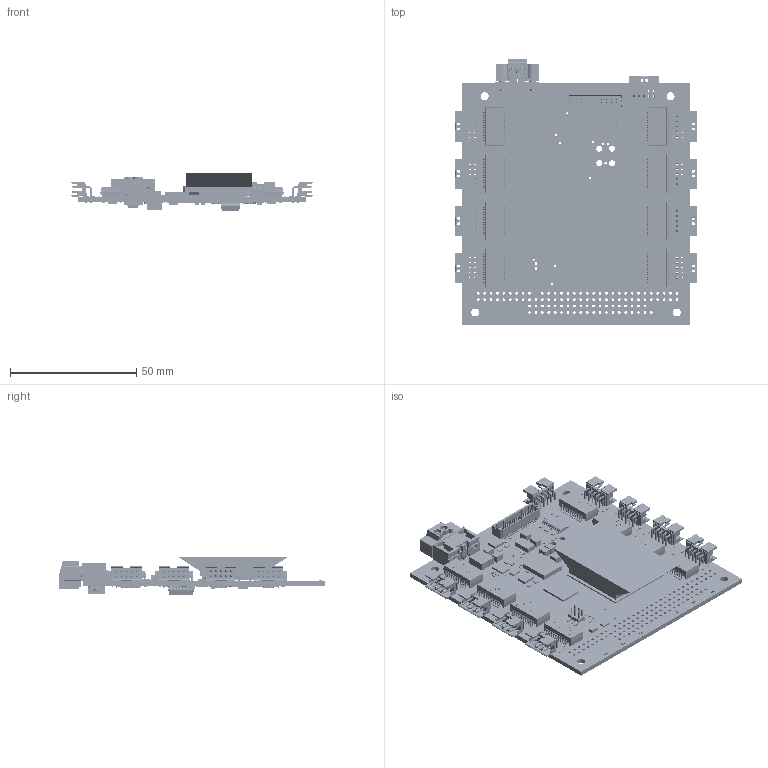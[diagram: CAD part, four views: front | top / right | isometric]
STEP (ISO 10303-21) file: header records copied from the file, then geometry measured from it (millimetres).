
FILE_DESCRIPTION(('Open CASCADE Model'),'2;1');
FILE_NAME('Open CASCADE Shape Model','2013-11-18T09:05:36',('Author'),( 'Open CASCADE'),'Open CASCADE STEP processor 6.2','Open CASCADE 6.2' ,'Unknown');
FILE_SCHEMA(('AUTOMOTIVE_DESIGN { 1 0 10303 214 1 1 1 1 }'));
Length unit declared in the file: millimetre
Products named in the file (485): PCB; Board; C151; 1027968352; Extruded; 1027967712; U4H; 749020023; U4G; U4F; U4E; U4D; U4C; U4B; U4A; R41H; 1027981664; 1027967584; R41G; R41F; R41E; R41D; R41C; R41B; R41A; R40H; R40G; R40F; R40E; R40D; R40C; R40B; R40A; R39H; R39G; R39F; R39E; R39D; R39C; R39B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
Assembly tree (1460 placements, depth 4):
  PCB
    Board
    C151
      1027968352
        Extruded
      1027967712  x2
        Extruded
    U4H
      749020023
    U4G
      749020023
    U4F
      749020023
    U4E
      749020023
    U4D
      749020023
    U4C
      749020023
    U4B
      749020023
    U4A
      749020023
    R41H
      1027981664  x2
        Extruded
      1027967584
        Extruded
    R41G
      1027981664  x2
        Extruded
      1027967584
        Extruded
    R41F
      1027981664  x2
        Extruded
      1027967584
        Extruded
    R41E
      1027981664  x2
        Extruded
      1027967584
        Extruded
    R41D
      1027981664  x2
        Extruded
      1027967584
        Extruded
    R41C
      1027981664  x2
        Extruded
      1027967584
        Extruded
    R41B
      1027981664  x2
        Extruded
      1027967584
        Extruded
    R41A
      1027981664  x2
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Bounding box: 95.65 x 105.67 x 14.88 mm (x, y, z)
Volume: 31226.6 mm3; surface area: 42713.8 mm2
Topology: 1034 solids, 1034 shells, 17633 faces, 43523 edges, 28212 vertices
Faces by surface type: plane 15490, cylinder 1799, extrusion 248, cone 50, sphere 30, torus 16
Full cylindrical faces by diameter (mm): 0.5 x8, 0.7 x2, 0.8 x90, 0.889 x7, 0.995 x6, 1.067 x102, 1.2 x2, 2.375 x4, 3.175 x4, 20 x1
Entity records: 299411 total; most frequent: CARTESIAN_POINT 65788, DIRECTION 40351, VECTOR 25956, LINE 25925, ORIENTED_EDGE 21400, PCURVE 21400, DEFINITIONAL_REPRESENTATION 21400, EDGE_CURVE 10700
